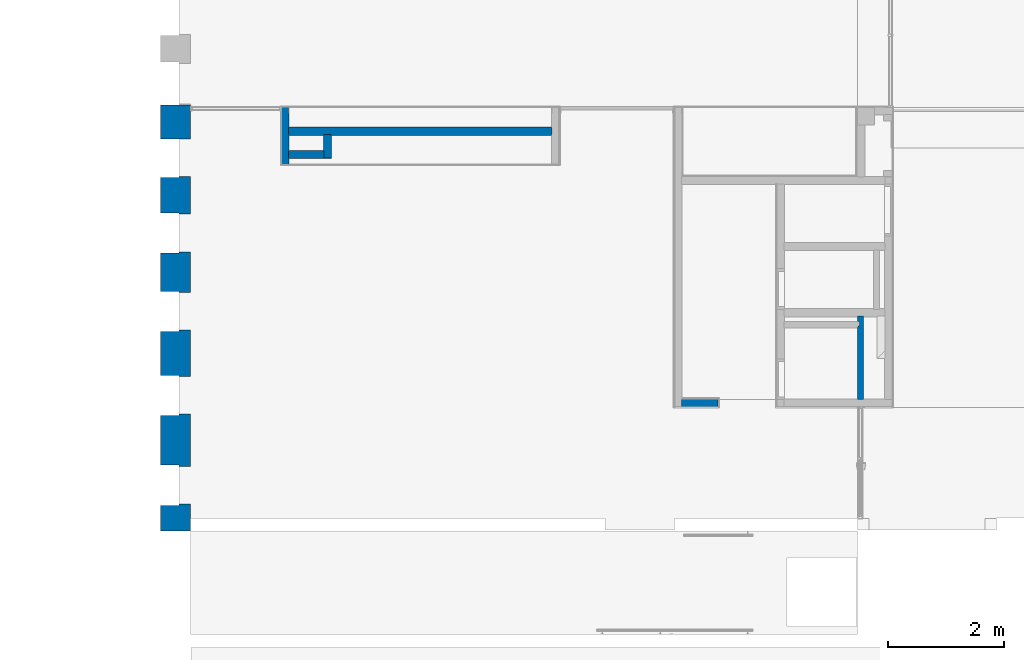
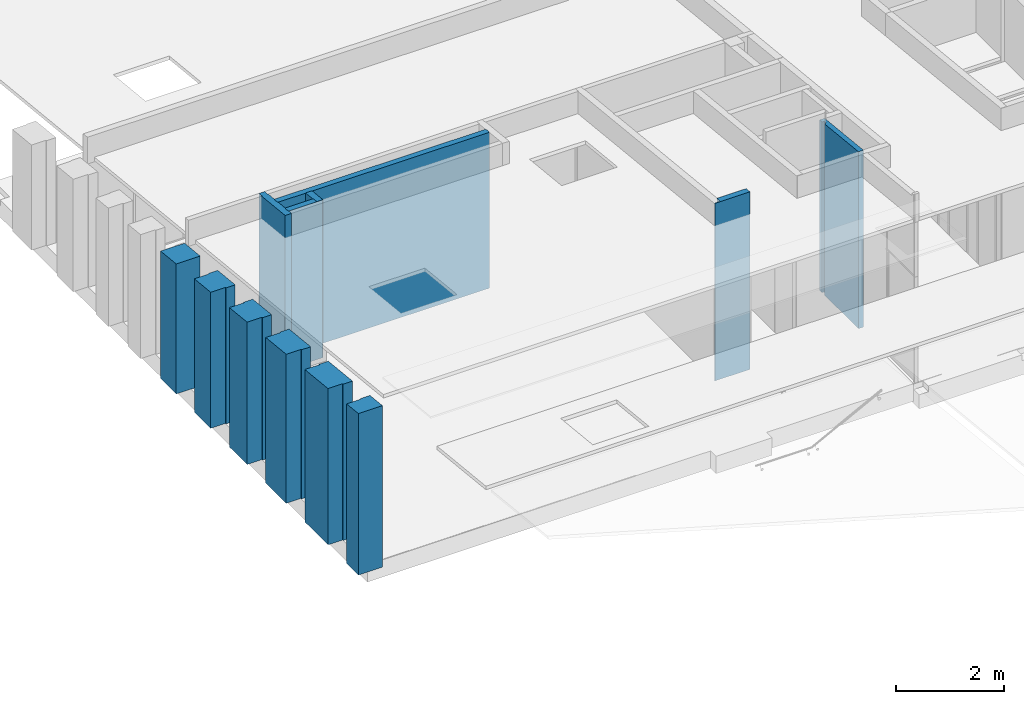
# One storey, part 25 of 43: 8 walls, 5 openings.
"""IFC2X3 building model written with IfcOpenShell, lengths in millimetres."""

import ifcopenshell
import ifcopenshell.guid

model = None  # the IFC model being written
_history = None  # IfcOwnerHistory: only IFC2X3 demands one
_inside = {}  # id of a spatial element -> (the spatial element, [elements in it])
_under = {}  # id of a project, library or spatial element -> (it, [spatial elements below it])
_declared = {}  # id of a project -> (the project, [libraries it declares])
_typed = {}  # id of a type object -> (the type object, [elements of that type])
_made_of = {}  # id of a material, layer set ... -> (it, [elements and type objects made of it])


def new_model(schema):
    """Start an empty IFC model of exactly this schema.

    Asked for "IFC4X3", IfcOpenShell would pick the latest addendum, in which some entities
    have other attributes; the version numbers below select the first issue.
    IFC2X3 requires an IfcOwnerHistory on every rooted entity: one is made here for all.
    """
    global model, _history
    if schema == "IFC4X3":
        model = ifcopenshell.file(schema_version=(4, 3, 0, 0))
    else:
        model = ifcopenshell.file(schema=schema)
    _inside.clear()
    _under.clear()
    _declared.clear()
    _typed.clear()
    _made_of.clear()
    _history = None
    if model.schema == "IFC2X3":
        org = make("IfcOrganization", Name="unknown")
        user = make(
            "IfcPersonAndOrganization",
            ThePerson=make("IfcPerson", FamilyName="unknown"),
            TheOrganization=org,
        )
        app = make(
            "IfcApplication",
            ApplicationDeveloper=org,
            Version="unknown",
            ApplicationFullName="unknown",
            ApplicationIdentifier="unknown",
        )
        _history = make(
            "IfcOwnerHistory",
            OwningUser=user,
            OwningApplication=app,
            ChangeAction="ADDED",
            CreationDate=0,
        )
    return model


def make(cls, **values):
    """One entity of the class cls with the attributes given. An attribute that is None is left unset."""
    return model.create_entity(
        cls, **{name: value for name, value in values.items() if value is not None}
    )


def entity(cls, *values):
    """Any entity or typed value of the class cls, its attributes in the order of the schema. None: left unset."""
    e = model.create_entity(cls)
    for i, value in enumerate(values):
        if value is not None:
            e[i] = value
    return e


def rooted(cls, **values):
    """An entity with a GlobalId (a new one), such as an element, a storey or a relation."""
    return make(cls, GlobalId=ifcopenshell.guid.new(), OwnerHistory=_history, **values)


def si_unit(unit_type, name, prefix=None):
    """IfcSIUnit, for example si_unit("LENGTHUNIT", "METRE", prefix="MILLI")."""
    return make("IfcSIUnit", UnitType=unit_type, Prefix=prefix, Name=name)


def converted_unit(unit_type, name, factor, base, dimensions=None, offset=None):
    """IfcConversionBasedUnit, such as the inch: factor (a typed value) times the base unit."""
    return make(
        "IfcConversionBasedUnit"
        if offset is None
        else "IfcConversionBasedUnitWithOffset",
        ConversionOffset=offset,
        Dimensions=None
        if dimensions is None
        else entity("IfcDimensionalExponents", *dimensions),
        UnitType=unit_type,
        Name=name,
        ConversionFactor=make(
            "IfcMeasureWithUnit", ValueComponent=factor, UnitComponent=base
        ),
    )


def derived_unit(unit_type, elements):
    """IfcDerivedUnit: a product of units, each with its exponent."""
    return make(
        "IfcDerivedUnit",
        Elements=[
            make("IfcDerivedUnitElement", Unit=unit, Exponent=power)
            for unit, power in elements
        ],
        UnitType=unit_type,
    )


def money_unit(currency):
    """IfcMonetaryUnit."""
    return make("IfcMonetaryUnit", Currency=currency)


def assignment(units):
    """IfcUnitAssignment: the units of a project."""
    return None if units is None else make("IfcUnitAssignment", Units=units)


def point(xyz):
    """IfcCartesianPoint."""
    return None if xyz is None else make("IfcCartesianPoint", Coordinates=xyz)


def direction(xyz):
    """IfcDirection."""
    return None if xyz is None else make("IfcDirection", DirectionRatios=xyz)


def frame(location, z_axis=None, x_axis=None):
    """IfcAxis2Placement3D, a coordinate frame: its origin and axes. An axis left out is left unset."""
    return make(
        "IfcAxis2Placement3D",
        Location=point(location),
        Axis=direction(z_axis),
        RefDirection=direction(x_axis),
    )


def origin_with_axes():
    """The frame at (0, 0, 0) with the z axis (0, 0, 1) and the x axis (1, 0, 0) written out."""
    return frame((0.0, 0.0, 0.0), z_axis=(0.0, 0.0, 1.0), x_axis=(1.0, 0.0, 0.0))


def place(relative_to, where):
    """IfcLocalPlacement: puts the frame where relative to a parent placement (None: the world)."""
    return make(
        "IfcLocalPlacement", PlacementRelTo=relative_to, RelativePlacement=where
    )


def context(
    kind, dimensions, precision=None, world=None, true_north=None, identifier=None
):
    """IfcGeometricRepresentationContext, for example the 3D "Model" context."""
    return make(
        "IfcGeometricRepresentationContext",
        ContextIdentifier=identifier,
        ContextType=kind,
        CoordinateSpaceDimension=dimensions,
        Precision=precision,
        WorldCoordinateSystem=world,
        TrueNorth=true_north,
    )


def subcontext(parent, identifier, kind, view, scale=None):
    """IfcGeometricRepresentationSubContext, for example "Body" below "Model"."""
    return make(
        "IfcGeometricRepresentationSubContext",
        ContextIdentifier=identifier,
        ContextType=kind,
        ParentContext=parent,
        TargetScale=scale,
        TargetView=view,
    )


def project(units=None, contexts=None):
    """IfcProject with its units and contexts."""
    return rooted(
        "IfcProject",
        Name="project",
        RepresentationContexts=contexts,
        UnitsInContext=assignment(units),
    )


def spatial(cls, under=None, at=None, **own):
    """A site, building, storey or space (cls), placed at a placement, below another one or the project."""
    s = rooted(cls, ObjectPlacement=at, **own)
    if under is not None:
        _under.setdefault(under.id(), (under, []))[1].append(s)
    return s


def faces_of(points, faces, orient=None, outer=None):
    """IfcFace entities. A face is a list of loops; a loop is a list of indices into points, from 0.

    orient and outer hold one flag for each loop. By default every Orientation is true, the
    first loop of a face is its IfcFaceOuterBound and the others are IfcFaceBound.
    """
    made = []
    for i, loops in enumerate(faces):
        bounds = []
        for j, loop in enumerate(loops):
            is_outer = j == 0 if outer is None else outer[i][j]
            bounds.append(
                make(
                    "IfcFaceOuterBound" if is_outer else "IfcFaceBound",
                    Bound=make("IfcPolyLoop", Polygon=[points[k] for k in loop]),
                    Orientation=True if orient is None else orient[i][j],
                )
            )
        made.append(make("IfcFace", Bounds=bounds))
    return made


def faceted_brep(points, faces, orient=None, outer=None, voids=None):
    """IfcFacetedBrep: a solid bounded by flat faces; with voids (closed shells), ...WithVoids."""
    shared = [point(p) for p in points]
    hull = make("IfcClosedShell", CfsFaces=faces_of(shared, faces, orient, outer))
    if voids is None:
        return make("IfcFacetedBrep", Outer=hull)
    return make(
        "IfcFacetedBrepWithVoids",
        Outer=hull,
        Voids=[
            make(cls, CfsFaces=faces_of(shared, fs, o, b)) for cls, fs, o, b in voids
        ],
    )


def shape(context_of_items, identifier, shape_type, items):
    """IfcShapeRepresentation: the items that make up one representation, for example the "Body"."""
    return make(
        "IfcShapeRepresentation",
        ContextOfItems=context_of_items,
        RepresentationIdentifier=identifier,
        RepresentationType=shape_type,
        Items=items,
    )


def material(Name=None, Category=None):
    """IfcMaterial."""
    return make("IfcMaterial", Name=Name, Category=Category)


def material_list(materials):
    """IfcMaterialList."""
    return make("IfcMaterialList", Materials=materials)


def made_of(thing, what):
    """Note that an element or type object is made of a material, layer set ...; save() writes the relation."""
    if what is not None:
        _made_of.setdefault(what.id(), (what, []))[1].append(thing)
    return thing


def type_object(cls, material=None, **own):
    """A type object (cls), such as IfcWallType, which elements share."""
    return made_of(rooted(cls, **own), material)


def element(
    cls,
    number,
    at=None,
    inside=None,
    cuts=None,
    type_object=None,
    material=None,
    context=None,
    identifier="Body",
    shape_type=None,
    held_by="IfcProductDefinitionShape",
    body=None,
    shapes=None,
    **own,
):
    """One element of the class cls, such as IfcWall. Its Tag is "e" and its number.

    at: its placement. inside: the storey or other place that contains it. cuts: it is an
    opening in that element (IfcRelVoidsElement). A single representation is given by context,
    identifier, shape_type and body (its items); several are given by shapes. held_by: the class
    of the entity that holds the representations. save() writes the other relations.
    """
    e = rooted(cls, Tag="e%d" % number, ObjectPlacement=at, **own)
    if body is not None:
        shapes = [shape(context, identifier, shape_type, body)]
    if shapes is not None:
        e.Representation = make(held_by, Representations=shapes)
    if inside is not None:
        _inside.setdefault(inside.id(), (inside, []))[1].append(e)
    if cuts is not None:
        rooted(
            "IfcRelVoidsElement", RelatingBuildingElement=cuts, RelatedOpeningElement=e
        )
    if type_object is not None:
        _typed.setdefault(type_object.id(), (type_object, []))[1].append(e)
    return made_of(e, material)


def aggregate(whole, parts):
    """IfcRelAggregates: a whole, such as a stair, and the parts it consists of."""
    return rooted("IfcRelAggregates", RelatingObject=whole, RelatedObjects=parts)


def save(model, path):
    """Write the relations noted so far, then the file.

    IfcRelAggregates (storeys below a building ...), IfcRelContainedInSpatialStructure (elements
    in a storey), IfcRelDefinesByType, IfcRelAssociatesMaterial and IfcRelDeclares: one each for
    every whole, place, type object, material and project.
    """
    for whole, parts in _under.values():
        aggregate(whole, parts)
    for where, things in _inside.values():
        rooted(
            "IfcRelContainedInSpatialStructure",
            RelatedElements=things,
            RelatingStructure=where,
        )
    for kind, things in _typed.values():
        rooted("IfcRelDefinesByType", RelatedObjects=things, RelatingType=kind)
    for what, things in _made_of.values():
        rooted("IfcRelAssociatesMaterial", RelatedObjects=things, RelatingMaterial=what)
    for by, libraries in _declared.values():
        rooted("IfcRelDeclares", RelatingContext=by, RelatedDefinitions=libraries)
    model.write(path)


model = new_model("IFC2X3")

# Units and contexts
model_context = context("Model", 3, precision=0.01, world=origin_with_axes(), true_north=direction((0.0, 1.0)))
body_context = subcontext(model_context, "Body", "Model", "MODEL_VIEW")
ifc_project = project(units=[si_unit("LENGTHUNIT", "METRE", prefix="MILLI"), si_unit("AREAUNIT", "SQUARE_METRE"), si_unit("VOLUMEUNIT", "CUBIC_METRE"), converted_unit("PLANEANGLEUNIT", "DEGREE", entity("IfcPlaneAngleMeasure", 0.0174532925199), si_unit("PLANEANGLEUNIT", "RADIAN"), dimensions=[0, 0, 0, 0, 0, 0, 0]), si_unit("SOLIDANGLEUNIT", "STERADIAN"), money_unit("EUR"), converted_unit("TIMEUNIT", "Year", entity("IfcTimeMeasure", 31556926.0), si_unit("TIMEUNIT", "SECOND"), dimensions=[0, 0, 1, 0, 0, 0, 0]), si_unit("MASSUNIT", "GRAM", prefix="KILO"), si_unit("THERMODYNAMICTEMPERATUREUNIT", "DEGREE_CELSIUS"), si_unit("LUMINOUSINTENSITYUNIT", "LUMEN"), si_unit("ENERGYUNIT", "JOULE", prefix="MEGA"), derived_unit("THERMALCONDUCTANCEUNIT", [(si_unit("POWERUNIT", "WATT"), 1), (si_unit("LENGTHUNIT", "METRE"), -1), (si_unit("THERMODYNAMICTEMPERATUREUNIT", "KELVIN"), -1)]), derived_unit("SPECIFICHEATCAPACITYUNIT", [(si_unit("ENERGYUNIT", "JOULE"), 1), (si_unit("MASSUNIT", "GRAM", prefix="KILO"), -1), (si_unit("THERMODYNAMICTEMPERATUREUNIT", "KELVIN"), -1)]), derived_unit("MASSDENSITYUNIT", [(si_unit("MASSUNIT", "GRAM", prefix="KILO"), 1), (si_unit("VOLUMEUNIT", "CUBIC_METRE"), -1)])], contexts=[model_context])

# Site, building, storey
site_placement = place(None, origin_with_axes())
site = spatial("IfcSite", under=ifc_project, at=site_placement, Name="L.Koidula tn 11b", CompositionType="ELEMENT")
building_placement = place(site_placement, origin_with_axes())
building = spatial("IfcBuilding", under=site, at=building_placement, Name="Rakvere Riigigümnaasium", CompositionType="ELEMENT")
storey_placement = place(building_placement, frame((0.0, 0.0, 6665.0), z_axis=(0.0, 0.0, 1.0), x_axis=(1.0, 0.0, 0.0)))
storey = spatial("IfcBuildingStorey", under=building, at=storey_placement, Name="3.korrus +6,66", CompositionType="ELEMENT", Elevation=6665.0)

# Walls
ifc_material_1 = material(Name="Krohv")
ifc_material_2 = material(Name="Silikaat plokk")
ifc_material_list_1 = material_list([ifc_material_1, ifc_material_2, ifc_material_1])
wall_type_1 = type_object("IfcWallType", Name="SS-05 140", PredefinedType="NOTDEFINED")
wall_1_placement = place(storey_placement, frame((37074.9860125, 24410.4555472, 0.0), z_axis=(0.0, 0.0, 1.0), x_axis=(0.0, -1.0, 0.0)))
element("IfcWall", 1, at=wall_1_placement, inside=storey, type_object=wall_type_1, material=ifc_material_list_1, Name="Sisesein", context=body_context, shape_type="Brep", body=[
    faceted_brep([(117.5, 120.0, 0.0), (117.5, 120.000003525, 3491.19939905), (117.5, 130.0000141, 3491.19924725), (117.5, 130.0, 0.0), (360.000000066, 120.0, 0.0), (360.000000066, 120.000001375, 3516.68717584), (360.000000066, 130.000005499, 3516.68702404), (360.000000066, 130.0, 0.0)], [[[0, 1, 2, 3]], [[4, 5, 1, 0]], [[5, 6, 2, 1]], [[3, 2, 6, 7]], [[3, 7, 4, 0]], [[7, 6, 5, 4]]]),
    faceted_brep([(880.000000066, 120.0, 0.0), (880.000000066, 120.000000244, 3571.34137761), (880.000000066, 130.000000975, 3571.34122581), (880.000000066, 130.0, 0.0), (990.000000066, 120.0, 0.0), (990.000000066, 120.0, 3582.90284337), (990.000000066, 130.0, 3582.90269157), (990.000000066, 130.0, 0.0)], [[[0, 1, 2, 3]], [[4, 5, 1, 0]], [[5, 6, 2, 1]], [[3, 2, 6, 7]], [[4, 0, 3, 7]], [[7, 6, 5, 4]]]),
    faceted_brep([(480.000000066, 120.0, 0.0), (480.000000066, 120.000001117, 3529.29968394), (480.000000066, 130.000004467, 3529.29953214), (480.000000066, 130.0, 0.0), (760.000000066, 120.0, 0.0), (760.000000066, 120.000000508, 3558.72886951), (760.000000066, 130.000002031, 3558.72871771), (760.000000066, 130.0, 0.0)], [[[0, 1, 2, 3]], [[4, 5, 1, 0]], [[5, 6, 2, 1]], [[3, 2, 6, 7]], [[4, 0, 3, 7]], [[7, 6, 5, 4]]]),
    faceted_brep([(0.0, 0.0, 0.0), (0.0, 6.41093578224e-06, 3478.85147308), (0.0, 120.000002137, 3478.84965153), (0.0, 120.0, 0.0), (990.000000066, 0.0, 0.0), (990.000000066, 0.0, 3582.90466491), (990.000000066, 120.0, 3582.90284337), (990.000000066, 120.0, 0.0)], [[[0, 1, 2, 3]], [[4, 5, 1, 0]], [[5, 6, 2, 1]], [[3, 2, 6, 7]], [[3, 7, 4, 0]], [[7, 6, 5, 4]]]),
    faceted_brep([(117.5, -9.99999999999, 0.0), (117.5, -10.0, 3491.20137239), (117.5, 1.05751638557e-05, 3491.20122059), (117.5, 0.0, 0.0), (990.000000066, -10.0, 0.0), (990.000000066, -10.0, 3582.90481671), (990.000000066, 0.0, 3582.90466491), (990.000000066, 0.0, 0.0)], [[[0, 1, 2, 3]], [[4, 5, 1, 0]], [[5, 6, 2, 1]], [[3, 2, 6, 7]], [[3, 7, 4, 0]], [[7, 6, 5, 4]]]),
])
wall_2_placement = place(storey_placement, frame((41855.0034893, 23930.4555472, 0.0), z_axis=(0.0, 0.0, 1.0), x_axis=(-1.0, 0.0, 0.0)))
element("IfcWall", 2, at=wall_2_placement, inside=storey, type_object=wall_type_1, material=ifc_material_list_1, Name="Sisesein", context=body_context, shape_type="Brep", body=[
    faceted_brep([(3930.01747682, 0.0, 0.0), (3930.01747682, 0.0, 3529.28860286), (130.0, 0.0, 3529.23092029), (130.0, 0.0, 0.0), (3930.01747682, 10.0, 0.0), (3930.01747682, 10.0, 3530.33964521), (130.0, 10.0, 3530.28196263), (130.0, 10.0, 0.0)], [[[0, 1, 2, 3]], [[4, 5, 1, 0]], [[5, 6, 2, 1]], [[3, 2, 6, 7]], [[7, 4, 0, 3]], [[7, 6, 5, 4]]]),
    faceted_brep([(4650.01747682, 0.0, 0.0), (4650.01747682, 0.0, 3529.29953214), (4050.01747682, 0.0, 3529.29042441), (4050.01747682, 0.0, 0.0), (4650.01747682, 10.0, 0.0), (4650.01747682, 10.0, 3530.35057449), (4050.01747682, 10.0, 3530.34146675), (4050.01747682, 10.0, 0.0)], [[[0, 1, 2, 3]], [[4, 5, 1, 0]], [[5, 6, 2, 1]], [[3, 2, 6, 7]], [[7, 4, 0, 3]], [[7, 6, 5, 4]]]),
    faceted_brep([(4660.01747682, -120.0, 0.0), (4660.01747682, -120.0, 3516.68717584), (120.0, -120.0, 3516.61826039), (120.0, -120.0, 0.0), (4660.01747682, 0.0, 0.0), (4660.01747682, 0.0, 3529.29968394), (120.0, 0.0, 3529.23076849), (120.0, 0.0, 0.0)], [[[0, 1, 2, 3]], [[4, 5, 1, 0]], [[5, 6, 2, 1]], [[3, 2, 6, 7]], [[7, 4, 0, 3]], [[7, 6, 5, 4]]]),
    faceted_brep([(4650.01747682, -130.0, 0.0), (4650.01747682, -130.0, 3515.6359817), (130.0, -130.0, 3515.56736984), (130.0, -130.0, 0.0), (4650.01747682, -120.0, 0.0), (4650.01747682, -120.0, 3516.68702404), (130.0, -120.0, 3516.61841218), (130.0, -120.0, 0.0)], [[[0, 1, 2, 3]], [[4, 5, 1, 0]], [[5, 6, 2, 1]], [[3, 2, 6, 7]], [[7, 4, 0, 3]], [[7, 6, 5, 4]]]),
])
wall_3_placement = place(storey_placement, frame((37804.9860125, 23930.4555472, 0.0), z_axis=(0.0, 0.0, 1.0), x_axis=(0.0, -1.0, 0.0)))
element("IfcWall", 3, at=wall_3_placement, inside=storey, type_object=wall_type_1, material=ifc_material_list_1, Name="Sisesein", context=body_context, shape_type="Brep", body=[
    faceted_brep([(10.0, 120.0, 3530.33964521), (10.0, 130.0, 3530.33949341), (10.0, 130.0, 0.0), (10.0, 120.0, 0.0), (410.0, 130.0, 3572.38118708), (410.0, 120.0, 3572.38133887), (410.0, 130.0, 0.0), (410.0, 120.0, 0.0)], [[[0, 1, 2, 3]], [[4, 1, 0, 5]], [[1, 4, 6, 2]], [[6, 7, 3, 2]], [[5, 0, 3, 7]], [[4, 5, 7, 6]]]),
    faceted_brep([(0.0, 0.0, 3529.29042441), (0.0, 120.0, 3529.28860286), (0.0, 120.0, 0.0), (0.0, 0.0, 0.0), (400.0, 120.0, 3571.33029653), (400.0, 0.0, 3571.33211808), (400.0, 120.0, 0.0), (400.0, 0.0, 0.0)], [[[0, 1, 2, 3]], [[4, 1, 0, 5]], [[1, 4, 6, 2]], [[6, 7, 3, 2]], [[5, 0, 3, 7]], [[4, 5, 7, 6]]]),
    faceted_brep([(10.0, -10.0, 3530.34161855), (10.0, 0.0, 3530.34146675), (10.0, 0.0, 0.0), (10.0, -10.0, 0.0), (280.0, 0.0, 3558.71960998), (280.0, -10.0, 3558.71976177), (280.0, 0.0, 0.0), (280.0, -10.0, 0.0)], [[[0, 1, 2, 3]], [[4, 1, 0, 5]], [[1, 4, 6, 2]], [[6, 7, 3, 2]], [[5, 0, 3, 7]], [[4, 5, 7, 6]]]),
])
wall_4_placement = place(storey_placement, frame((37804.9860125, 23530.4555472, 0.0), z_axis=(0.0, 0.0, 1.0), x_axis=(-1.0, 0.0, 0.0)))
element("IfcWall", 4, at=wall_4_placement, inside=storey, type_object=wall_type_1, material=ifc_material_list_1, Name="Sisesein", context=body_context, shape_type="Brep", body=[
    faceted_brep([(600.0, 0.0, 3571.34122581), (-120.0, 0.0, 3571.33029653), (-120.0, 0.0, 0.0), (600.0, 0.0, 0.0), (-120.0, 10.0, 3572.38133887), (600.0, 10.0, 3572.39226815), (-120.0, 10.0, 0.0), (600.0, 10.0, 0.0)], [[[0, 1, 2, 3]], [[4, 1, 0, 5]], [[1, 4, 6, 2]], [[7, 3, 2, 6]], [[5, 0, 3, 7]], [[4, 5, 7, 6]]]),
    faceted_brep([(610.0, -120.0, 3558.72886951), (0.0, -120.0, 3558.71960998), (0.0, -120.0, 0.0), (610.0, -120.0, 0.0), (0.0, 0.0, 3571.33211808), (610.0, 0.0, 3571.34137761), (0.0, 0.0, 0.0), (610.0, 0.0, 0.0)], [[[0, 1, 2, 3]], [[4, 1, 0, 5]], [[1, 4, 6, 2]], [[7, 3, 2, 6]], [[5, 0, 3, 7]], [[4, 5, 7, 6]]]),
    faceted_brep([(600.0, -130.0, 3557.67767537), (10.0, -130.0, 3557.66871943), (10.0, -130.0, 0.0), (600.0, -130.0, 0.0), (10.0, -120.0, 3558.71976177), (600.0, -120.0, 3558.72871771), (10.0, -120.0, 0.0), (600.0, -120.0, 0.0)], [[[0, 1, 2, 3]], [[4, 1, 0, 5]], [[1, 4, 6, 2]], [[7, 3, 2, 6]], [[5, 0, 3, 7]], [[4, 5, 7, 6]]]),
])
wall_5_placement = place(storey_placement, frame((44599.9999911, 19240.4397072, 0.0), z_axis=(0.0, 0.0, 1.0), x_axis=(-1.0, 0.0, 0.0)))
element("IfcWall", 5, at=wall_5_placement, inside=storey, type_object=wall_type_1, material=ifc_material_list_1, Name="Sisesein", context=body_context, shape_type="Brep", body=[
    faceted_brep([(749.999994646, 10.0, 0.0), (749.999994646, 0.0, 0.0), (0.0, 0.0, 0.0), (0.0, 10.0, 0.0), (749.999994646, 10.0, 4022.12780187), (749.999994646, 0.0, 4022.12780187), (0.0, 0.0, 4022.12780187), (0.0, 10.0, 4022.12780187)], [[[0, 1, 2, 3]], [[1, 0, 4, 5]], [[1, 5, 6, 2]], [[7, 3, 2, 6]], [[4, 0, 3, 7]], [[5, 4, 7, 6]]]),
    faceted_brep([(629.999994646, -120.0, 4009.52485723), (0.0, -120.0, 4009.51529411), (0.0, -120.0, 0.0), (629.999994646, -120.0, 0.0), (0.0, -3.50439677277e-08, 4022.12780221), (629.999994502, -0.00099417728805, 4022.13726084), (0.0, 0.0, 0.0), (629.999994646, 0.0, 0.0)], [[[0, 1, 2, 3]], [[4, 1, 0, 5]], [[1, 4, 6, 2]], [[2, 6, 7, 3]], [[5, 0, 3, 7]], [[4, 5, 7, 6]]]),
    faceted_brep([(619.999994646, -130.0, 4008.47366309), (0.0, -130.0, 4008.46425177), (0.0, -130.0, 0.0), (619.999994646, -130.0, 0.0), (0.0, -120.0, 4009.51529411), (619.999994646, -120.0, 4009.52470544), (0.0, -120.0, 0.0), (619.999994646, -120.0, 0.0)], [[[0, 1, 2, 3]], [[4, 1, 0, 5]], [[1, 4, 6, 2]], [[7, 3, 2, 6]], [[5, 0, 3, 7]], [[4, 5, 7, 6]]]),
])

# Wall, openings
ifc_material_3 = material(Name="Betoon-element")
ifc_material_4 = material(Name="FF-PIR soojustus")
ifc_material_5 = material(Name="Tuuletõke (RKL Facade)")
ifc_material_6 = material(Name="Salto-roovitus")
ifc_material_7 = material(Name="Puit-fassaad")
ifc_material_list_2 = material_list([ifc_material_3, ifc_material_4, ifc_material_5, ifc_material_6, ifc_material_6, ifc_material_7])
wall_type_2 = type_object("IfcWallType", Name="VS-01 514", PredefinedType="NOTDEFINED")
wall_6_placement = place(storey_placement, frame((35500.0000521, 23860.4555253, 0.0), z_axis=(0.0, 0.0, 1.0), x_axis=(0.0, -1.0, 0.0)))
wall_6 = element("IfcWall", 6, at=wall_6_placement, inside=storey, type_object=wall_type_2, material=ifc_material_list_2, Name="Välissein", context=body_context, shape_type="Brep", body=[
    faceted_brep([(6300.00016777, -200.0, 3608.39182343), (6300.00016777, 0.0, 3608.39182343), (6300.00016777, 0.0, 0.0), (6300.00016777, -200.0, 0.0), (6760.00000367, 0.0, 3656.73975441), (6760.00000367, -200.0, 3656.73975441), (6760.00000367, 0.0, 0.0), (6760.00000367, -200.0, 0.0)], [[[0, 1, 2, 3]], [[4, 1, 0, 5]], [[1, 4, 6, 2]], [[2, 6, 7, 3]], [[5, 0, 3, 7]], [[4, 5, 7, 6]]]),
    faceted_brep([(4750.00000306, -200.0, 3445.48024146), (4750.00000306, 0.0, 3445.48024146), (4750.0, 0.0, 0.0), (4750.0, -200.0, 0.0), (5650.00016777, 0.0, 3540.07407051), (5650.00016777, -200.0, 3540.07407051), (5650.00016777, 0.0, 0.0), (5650.00016777, -200.0, 0.0)], [[[0, 1, 2, 3]], [[4, 1, 0, 5]], [[1, 4, 6, 2]], [[7, 3, 2, 6]], [[5, 0, 3, 7]], [[4, 5, 7, 6]]]),
    faceted_brep([(3300.0, -200.0, 3293.0791), (3300.0, 0.0, 3293.0791), (3300.0, 0.0, 0.0), (3300.0, -200.0, 0.0), (4100.0, 0.0, 3377.16248822), (4100.0, -200.0, 3377.16248822), (4100.0, 0.0, 0.0), (4100.0, -200.0, 0.0)], [[[0, 1, 2, 3]], [[4, 1, 0, 5]], [[1, 4, 6, 2]], [[3, 2, 6, 7]], [[5, 0, 3, 7]], [[4, 5, 7, 6]]]),
    faceted_brep([(1950.0, -200.0, 3151.18838239), (1950.0, 0.0, 3151.18838239), (1950.0, 0.0, 0.0), (1950.0, -200.0, 0.0), (2650.0, 0.0, 3224.76134708), (2650.0, -200.0, 3224.76134708), (2650.0, 0.0, 0.0), (2650.0, -200.0, 0.0)], [[[0, 1, 2, 3]], [[4, 1, 0, 5]], [[1, 4, 6, 2]], [[2, 6, 7, 3]], [[5, 0, 3, 7]], [[4, 5, 7, 6]]]),
    faceted_brep([(650.0, -200.0, 3014.55287655), (650.0, 0.0, 3014.55287655), (650.0, 0.0, 0.0), (650.0, -200.0, 0.0), (1300.0, 0.0, 3082.87062947), (1300.0, -200.0, 3082.87062947), (1300.0, 0.0, 0.0), (1300.0, -200.0, 0.0)], [[[0, 1, 2, 3]], [[4, 1, 0, 5]], [[1, 4, 6, 2]], [[6, 7, 3, 2]], [[5, 0, 3, 7]], [[4, 5, 7, 6]]]),
    faceted_brep([(6320.00016777, -380.0, 3610.49390814), (6320.00016777, -200.0, 3610.49390814), (6320.00016777, -200.0, 0.0), (6320.00016777, -380.0, 0.0), (6760.00000367, -200.0, 3656.73975441), (6518.31248762, -380.0, 3631.33737286), (6760.00000366, -380.009756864, 3656.73975441), (6760.00000367, -200.0, 0.0), (6760.00000367, -380.0, 0.0)], [[[0, 1, 2, 3]], [[4, 1, 0, 5, 6]], [[1, 4, 7, 2]], [[7, 8, 3, 2]], [[5, 0, 3, 8]], [[6, 5, 8]], [[4, 6, 8, 7]]]),
    faceted_brep([(4770.0, -380.0, 3447.58232584), (4770.0, -200.0, 3447.58232584), (4770.0, -200.0, 0.0), (4770.0, -380.0, 0.0), (5630.00016777, -200.0, 3537.97198581), (5630.00016777, -380.0, 3537.97198581), (5630.00016777, -200.0, 0.0), (5630.00016777, -380.0, 0.0)], [[[0, 1, 2, 3]], [[4, 1, 0, 5]], [[1, 4, 6, 2]], [[3, 2, 6, 7]], [[5, 0, 3, 7]], [[4, 5, 7, 6]]]),
    faceted_brep([(3320.0, -380.0, 3295.18118471), (3320.0, -200.0, 3295.18118471), (3320.0, -200.0, 0.0), (3320.0, -380.0, 0.0), (4080.0, -200.0, 3375.06040351), (4080.0, -380.0, 3375.06040351), (4080.0, -200.0, 0.0), (4080.0, -380.0, 0.0)], [[[0, 1, 2, 3]], [[4, 1, 0, 5]], [[1, 4, 6, 2]], [[2, 6, 7, 3]], [[5, 0, 3, 7]], [[4, 5, 7, 6]]]),
    faceted_brep([(1970.0, -380.0, 3153.2904671), (1970.0, -200.0, 3153.2904671), (1970.0, -200.0, 0.0), (1970.0, -380.0, 0.0), (2630.0, -200.0, 3222.65926238), (2630.0, -380.0, 3222.65926238), (2630.0, -200.0, 0.0), (2630.0, -380.0, 0.0)], [[[0, 1, 2, 3]], [[4, 1, 0, 5]], [[1, 4, 6, 2]], [[6, 7, 3, 2]], [[5, 0, 3, 7]], [[4, 5, 7, 6]]]),
    faceted_brep([(670.0, -380.0, 3016.65496125), (670.0, -200.0, 3016.65496125), (670.0, -200.0, 0.0), (670.0, -380.0, 0.0), (1280.0, -200.0, 3080.76854477), (1280.0, -380.0, 3080.76854477), (1280.0, -200.0, 0.0), (1280.0, -380.0, 0.0)], [[[0, 1, 2, 3]], [[4, 1, 0, 5]], [[1, 4, 6, 2]], [[7, 3, 2, 6]], [[5, 0, 3, 7]], [[4, 5, 7, 6]]]),
    faceted_brep([(6320.00016777, -430.0, 3610.49390814), (6320.00016777, -380.0, 3610.49390814), (6320.00016777, -380.0, 0.0), (6320.00016777, -430.0, 0.0), (6760.00000367, -380.0, 3656.73975441), (6760.00000367, -430.0, 3656.73975441), (6760.00000367, -380.0, 0.0), (6760.00000367, -430.0, 0.0)], [[[0, 1, 2, 3]], [[4, 1, 0, 5]], [[1, 4, 6, 2]], [[6, 7, 3, 2]], [[5, 0, 3, 7]], [[4, 5, 7, 6]]]),
    faceted_brep([(4770.0, -430.0, 3447.58232584), (4770.0, -380.0, 3447.58232584), (4770.0, -380.0, 0.0), (4770.0, -430.0, 0.0), (5630.00016777, -380.0, 3537.97198581), (5630.00016777, -430.0, 3537.97198581), (5630.00016777, -380.0, 0.0), (5630.00016777, -430.0, 0.0)], [[[0, 1, 2, 3]], [[4, 1, 0, 5]], [[1, 4, 6, 2]], [[3, 2, 6, 7]], [[5, 0, 3, 7]], [[4, 5, 7, 6]]]),
    faceted_brep([(3320.0, -430.0, 3295.18118471), (3320.0, -380.0, 3295.18118471), (3320.0, -380.0, 0.0), (3320.0, -430.0, 0.0), (4080.0, -380.0, 3375.06040351), (4080.0, -430.0, 3375.06040351), (4080.0, -380.0, 0.0), (4080.0, -430.0, 0.0)], [[[0, 1, 2, 3]], [[4, 1, 0, 5]], [[1, 4, 6, 2]], [[2, 6, 7, 3]], [[5, 0, 3, 7]], [[4, 5, 7, 6]]]),
    faceted_brep([(1970.0, -430.0, 3153.2904671), (1970.0, -380.0, 3153.2904671), (1970.0, -380.0, 0.0), (1970.0, -430.0, 0.0), (2630.0, -380.0, 3222.65926238), (2630.0, -430.0, 3222.65926238), (2630.0, -380.0, 0.0), (2630.0, -430.0, 0.0)], [[[0, 1, 2, 3]], [[4, 1, 0, 5]], [[1, 4, 6, 2]], [[6, 7, 3, 2]], [[5, 0, 3, 7]], [[4, 5, 7, 6]]]),
    faceted_brep([(670.0, -430.0, 3016.65496125), (670.0, -380.0, 3016.65496125), (670.0, -380.0, 0.0), (670.0, -430.0, 0.0), (1280.0, -380.0, 3080.76854477), (1280.0, -430.0, 3080.76854477), (1280.0, -380.0, 0.0), (1280.0, -430.0, 0.0)], [[[0, 1, 2, 3]], [[4, 1, 0, 5]], [[1, 4, 6, 2]], [[7, 3, 2, 6]], [[5, 0, 3, 7]], [[4, 5, 7, 6]]]),
    faceted_brep([(6320.00016777, -462.0, 3610.49390814), (6320.00016777, -430.0, 3610.49390814), (6320.00016777, -430.0, 0.0), (6320.00016777, -462.0, 0.0), (6760.00000367, -430.0, 3656.73975441), (6760.00000367, -462.0, 3656.73975441), (6760.00000367, -430.0, 0.0), (6760.00000367, -462.0, 0.0)], [[[0, 1, 2, 3]], [[4, 1, 0, 5]], [[1, 4, 6, 2]], [[7, 3, 2, 6]], [[5, 0, 3, 7]], [[4, 5, 7, 6]]]),
    faceted_brep([(4770.0, -462.0, 3447.58232584), (4770.0, -430.0, 3447.58232584), (4770.0, -430.0, 0.0), (4770.0, -462.0, 0.0), (5630.00016777, -430.0, 3537.97198581), (5630.00016777, -462.0, 3537.97198581), (5630.00016777, -430.0, 0.0), (5630.00016777, -462.0, 0.0)], [[[0, 1, 2, 3]], [[4, 1, 0, 5]], [[1, 4, 6, 2]], [[2, 6, 7, 3]], [[5, 0, 3, 7]], [[4, 5, 7, 6]]]),
    faceted_brep([(3320.0, -462.0, 3295.18118471), (3320.0, -430.0, 3295.18118471), (3320.0, -430.0, 0.0), (3320.0, -462.0, 0.0), (4080.0, -430.0, 3375.06040351), (4080.0, -462.0, 3375.06040351), (4080.0, -430.0, 0.0), (4080.0, -462.0, 0.0)], [[[0, 1, 2, 3]], [[4, 1, 0, 5]], [[1, 4, 6, 2]], [[6, 7, 3, 2]], [[5, 0, 3, 7]], [[4, 5, 7, 6]]]),
    faceted_brep([(1970.0, -462.0, 3153.2904671), (1970.0, -430.0, 3153.2904671), (1970.0, -430.0, 0.0), (1970.0, -462.0, 0.0), (2630.0, -430.0, 3222.65926238), (2630.0, -462.0, 3222.65926238), (2630.0, -430.0, 0.0), (2630.0, -462.0, 0.0)], [[[0, 1, 2, 3]], [[4, 1, 0, 5]], [[1, 4, 6, 2]], [[7, 3, 2, 6]], [[5, 0, 3, 7]], [[4, 5, 7, 6]]]),
    faceted_brep([(670.0, -462.0, 3016.65496125), (670.0, -430.0, 3016.65496125), (670.0, -430.0, 0.0), (670.0, -462.0, 0.0), (1280.0, -430.0, 3080.76854477), (1280.0, -462.0, 3080.76854477), (1280.0, -430.0, 0.0), (1280.0, -462.0, 0.0)], [[[0, 1, 2, 3]], [[4, 1, 0, 5]], [[1, 4, 6, 2]], [[3, 2, 6, 7]], [[5, 0, 3, 7]], [[4, 5, 7, 6]]]),
    faceted_brep([(6320.00016777, -494.0, 3610.49390814), (6320.00016777, -462.0, 3610.49390814), (6320.00016777, -462.0, 0.0), (6320.00016777, -494.0, 0.0), (6760.00000367, -462.0, 3656.73975441), (6760.00000367, -494.0, 3656.73975441), (6760.00000367, -462.0, 0.0), (6760.00000367, -494.0, 0.0)], [[[0, 1, 2, 3]], [[4, 1, 0, 5]], [[1, 4, 6, 2]], [[7, 3, 2, 6]], [[5, 0, 3, 7]], [[4, 5, 7, 6]]]),
    faceted_brep([(4770.0, -494.0, 3447.58232584), (4770.0, -462.0, 3447.58232584), (4770.0, -462.0, 0.0), (4770.0, -494.0, 0.0), (5630.00016777, -462.0, 3537.97198581), (5630.00016777, -494.0, 3537.97198581), (5630.00016777, -462.0, 0.0), (5630.00016777, -494.0, 0.0)], [[[0, 1, 2, 3]], [[4, 1, 0, 5]], [[1, 4, 6, 2]], [[2, 6, 7, 3]], [[5, 0, 3, 7]], [[4, 5, 7, 6]]]),
    faceted_brep([(3320.0, -494.0, 3295.18118471), (3320.0, -462.0, 3295.18118471), (3320.0, -462.0, 0.0), (3320.0, -494.0, 0.0), (4080.0, -462.0, 3375.06040351), (4080.0, -494.0, 3375.06040351), (4080.0, -462.0, 0.0), (4080.0, -494.0, 0.0)], [[[0, 1, 2, 3]], [[4, 1, 0, 5]], [[1, 4, 6, 2]], [[6, 7, 3, 2]], [[5, 0, 3, 7]], [[4, 5, 7, 6]]]),
    faceted_brep([(1970.0, -494.0, 3153.2904671), (1970.0, -462.0, 3153.2904671), (1970.0, -462.0, 0.0), (1970.0, -494.0, 0.0), (2630.0, -462.0, 3222.65926238), (2630.0, -494.0, 3222.65926238), (2630.0, -462.0, 0.0), (2630.0, -494.0, 0.0)], [[[0, 1, 2, 3]], [[4, 1, 0, 5]], [[1, 4, 6, 2]], [[7, 3, 2, 6]], [[5, 0, 3, 7]], [[4, 5, 7, 6]]]),
    faceted_brep([(670.0, -494.0, 3016.65496125), (670.0, -462.0, 3016.65496125), (670.0, -462.0, 0.0), (670.0, -494.0, 0.0), (1280.0, -462.0, 3080.76854477), (1280.0, -494.0, 3080.76854477), (1280.0, -462.0, 0.0), (1280.0, -494.0, 0.0)], [[[0, 1, 2, 3]], [[4, 1, 0, 5]], [[1, 4, 6, 2]], [[3, 2, 6, 7]], [[5, 0, 3, 7]], [[4, 5, 7, 6]]]),
    faceted_brep([(6320.00016777, -514.0, 3610.49390814), (6320.00016777, -494.0, 3610.49390814), (6320.00016777, -494.0, 0.0), (6320.00016777, -514.0, 0.0), (6760.00000367, -494.0, 3656.73975441), (6760.00000367, -514.0, 3656.73975441), (6760.00000367, -494.0, 0.0), (6760.00000367, -514.0, 0.0)], [[[0, 1, 2, 3]], [[4, 1, 0, 5]], [[1, 4, 6, 2]], [[7, 3, 2, 6]], [[5, 0, 3, 7]], [[4, 5, 7, 6]]]),
    faceted_brep([(4770.0, -514.0, 3447.58232584), (4770.0, -494.0, 3447.58232584), (4770.0, -494.0, 0.0), (4770.0, -514.0, 0.0), (5630.00016777, -494.0, 3537.97198581), (5630.00016777, -514.0, 3537.97198581), (5630.00016777, -494.0, 0.0), (5630.00016777, -514.0, 0.0)], [[[0, 1, 2, 3]], [[4, 1, 0, 5]], [[1, 4, 6, 2]], [[2, 6, 7, 3]], [[5, 0, 3, 7]], [[4, 5, 7, 6]]]),
    faceted_brep([(3320.0, -514.0, 3295.18118471), (3320.0, -494.0, 3295.18118471), (3320.0, -494.0, 0.0), (3320.0, -514.0, 0.0), (4080.0, -494.0, 3375.06040351), (4080.0, -514.0, 3375.06040351), (4080.0, -494.0, 0.0), (4080.0, -514.0, 0.0)], [[[0, 1, 2, 3]], [[4, 1, 0, 5]], [[1, 4, 6, 2]], [[6, 7, 3, 2]], [[5, 0, 3, 7]], [[4, 5, 7, 6]]]),
    faceted_brep([(1970.0, -514.0, 3153.2904671), (1970.0, -494.0, 3153.2904671), (1970.0, -494.0, 0.0), (1970.0, -514.0, 0.0), (2630.0, -494.0, 3222.65926238), (2630.0, -514.0, 3222.65926238), (2630.0, -494.0, 0.0), (2630.0, -514.0, 0.0)], [[[0, 1, 2, 3]], [[4, 1, 0, 5]], [[1, 4, 6, 2]], [[7, 3, 2, 6]], [[5, 0, 3, 7]], [[4, 5, 7, 6]]]),
    faceted_brep([(670.0, -514.0, 3016.65496125), (670.0, -494.0, 3016.65496125), (670.0, -494.0, 0.0), (670.0, -514.0, 0.0), (1280.0, -494.0, 3080.76854477), (1280.0, -514.0, 3080.76854477), (1280.0, -494.0, 0.0), (1280.0, -514.0, 0.0)], [[[0, 1, 2, 3]], [[4, 1, 0, 5]], [[1, 4, 6, 2]], [[3, 2, 6, 7]], [[5, 0, 3, 7]], [[4, 5, 7, 6]]]),
])
opening_1_placement = place(wall_6_placement, frame((325.0, 0.0, 0.0), z_axis=(0.0, 0.0, 1.0), x_axis=(1.0, 0.0, 0.0)))
element("IfcOpeningElement", 7, at=opening_1_placement, cuts=wall_6, Name="Ava", context=body_context, shape_type="Brep", body=[
    faceted_brep([(-345.0, -1028.0, 0.0), (-345.0, -1028.0, 2964.56971482), (-345.0, -200.0, 2964.56971482), (-345.0, -200.0, 0.0), (345.0, -1028.0, 0.0), (345.0, -1028.0, 3036.75433021), (345.0, -200.0, 3036.75433021), (345.0, -200.0, 0.0)], [[[0, 1, 2, 3]], [[0, 4, 5, 1]], [[1, 5, 6, 2]], [[3, 2, 6, 7]], [[4, 0, 3, 7]], [[5, 4, 7, 6]]]),
    faceted_brep([(325.0, 514.0, 0.0), (325.0, 514.0, 3014.55287655), (325.0, -200.0, 3014.55287655), (325.0, -200.0, 0.0), (-325.0, 514.0, 0.0), (-325.0, 514.0, 2946.55287655), (-325.0, -200.0, 2946.55287655), (-325.0, -200.0, 0.0)], [[[0, 1, 2, 3]], [[0, 4, 5, 1]], [[1, 5, 6, 2]], [[3, 2, 6, 7]], [[4, 0, 3, 7]], [[5, 4, 7, 6]]]),
])
opening_2_placement = place(wall_6_placement, frame((1625.0, 0.0, 0.0), z_axis=(0.0, 0.0, 1.0), x_axis=(1.0, 0.0, 0.0)))
element("IfcOpeningElement", 8, at=opening_2_placement, cuts=wall_6, Name="Ava", context=body_context, shape_type="Brep", body=[
    faceted_brep([(-345.0, -1028.0, 0.0), (-345.0, -1028.0, 3101.20522067), (-345.0, -200.0, 3101.20522067), (-345.0, -200.0, 0.0), (345.0, -1028.0, 0.0), (345.0, -1028.0, 3173.38983605), (345.0, -200.0, 3173.38983605), (345.0, -200.0, 0.0)], [[[0, 1, 2, 3]], [[0, 4, 5, 1]], [[1, 5, 6, 2]], [[3, 2, 6, 7]], [[4, 0, 3, 7]], [[5, 4, 7, 6]]]),
    faceted_brep([(325.0, 514.0, 0.0), (325.0, 514.0, 3151.18838239), (325.0, -200.0, 3151.18838239), (325.0, -200.0, 0.0), (-325.0, 514.0, 0.0), (-325.0, 514.0, 3083.18838239), (-325.0, -200.0, 3083.18838239), (-325.0, -200.0, 0.0)], [[[0, 1, 2, 3]], [[0, 4, 5, 1]], [[1, 5, 6, 2]], [[3, 2, 6, 7]], [[4, 0, 3, 7]], [[5, 4, 7, 6]]]),
])
opening_3_placement = place(wall_6_placement, frame((2975.0, 0.0, 0.0), z_axis=(0.0, 0.0, 1.0), x_axis=(1.0, 0.0, 0.0)))
element("IfcOpeningElement", 9, at=opening_3_placement, cuts=wall_6, Name="Ava", context=body_context, shape_type="Brep", body=[
    faceted_brep([(-345.0, -1028.0, 0.0), (-345.0, -1028.0, 3243.09593828), (-345.0, -200.0, 3243.09593828), (-345.0, -200.0, 0.0), (345.0, -1028.0, 0.0), (345.0, -1028.0, 3315.28055366), (345.0, -200.0, 3315.28055366), (345.0, -200.0, 0.0)], [[[0, 1, 2, 3]], [[0, 4, 5, 1]], [[1, 5, 6, 2]], [[3, 2, 6, 7]], [[4, 0, 3, 7]], [[5, 4, 7, 6]]]),
    faceted_brep([(325.0, 514.0, 0.0), (325.0, 514.0, 3293.0791), (325.0, -200.0, 3293.0791), (325.0, -200.0, 0.0), (-325.0, 514.0, 0.0), (-325.0, 514.0, 3225.0791), (-325.0, -200.0, 3225.0791), (-325.0, -200.0, 0.0)], [[[0, 1, 2, 3]], [[0, 4, 5, 1]], [[1, 5, 6, 2]], [[3, 2, 6, 7]], [[4, 0, 3, 7]], [[5, 4, 7, 6]]]),
])
opening_4_placement = place(wall_6_placement, frame((4425.0, 0.0, -2.94218258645e-05), z_axis=(0.0, 0.0, 1.0), x_axis=(1.0, 0.0, 0.0)))
element("IfcOpeningElement", 10, at=opening_4_placement, cuts=wall_6, Name="Ava", context=body_context, shape_type="Brep", body=[
    faceted_brep([(-345.0, -1028.0, 2.94218258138e-05), (-345.0, -1028.0, 3395.49713826), (-345.0, -200.0, 3395.49713826), (-345.0, -200.0, 2.94218258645e-05), (345.0, -1028.0, 2.94218258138e-05), (345.0, -1028.0, 3467.68175364), (345.0, -200.0, 3467.68175364), (345.0, -200.0, 2.94218258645e-05)], [[[0, 1, 2, 3]], [[0, 4, 5, 1]], [[1, 5, 6, 2]], [[3, 2, 6, 7]], [[4, 0, 3, 7]], [[5, 4, 7, 6]]]),
    faceted_brep([(325.0, 514.0, 2.94218259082e-05), (325.0, 514.0, 3445.48029998), (325.0, -200.0, 3445.48029998), (325.0, -200.0, 2.94218258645e-05), (-325.0, 514.0, 2.94218259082e-05), (-325.0, 514.0, 3377.48029998), (-325.0, -200.0, 3377.48029998), (-325.0, -200.0, 2.94218258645e-05)], [[[0, 1, 2, 3]], [[0, 4, 5, 1]], [[1, 5, 6, 2]], [[3, 2, 6, 7]], [[4, 0, 3, 7]], [[5, 4, 7, 6]]]),
])
opening_5_placement = place(wall_6_placement, frame((5975.00016777, 0.0, 0.0), z_axis=(0.0, 0.0, 1.0), x_axis=(1.0, 0.0, 0.0)))
element("IfcOpeningElement", 11, at=opening_5_placement, cuts=wall_6, Name="Ava", context=body_context, shape_type="Brep", body=[
    faceted_brep([(-345.0, -1028.0, 0.0), (-345.0, -1028.0, 3558.40866171), (-345.0, -200.0, 3558.40866171), (-345.0, -200.0, 0.0), (345.0, -1028.0, 0.0), (345.0, -1028.0, 3630.59327709), (345.0, -200.0, 3630.59327709), (345.0, -200.0, 0.0)], [[[0, 1, 2, 3]], [[0, 4, 5, 1]], [[1, 5, 6, 2]], [[3, 2, 6, 7]], [[4, 0, 3, 7]], [[5, 4, 7, 6]]]),
    faceted_brep([(325.0, 514.0, 0.0), (325.0, 514.0, 3608.39182343), (325.0, -200.0, 3608.39182343), (325.0, -200.0, 0.0), (-325.0, 514.0, 0.0), (-325.0, 514.0, 3540.39182343), (-325.0, -200.0, 3540.39182343), (-325.0, -200.0, 0.0)], [[[0, 1, 2, 3]], [[0, 4, 5, 1]], [[1, 5, 6, 2]], [[3, 2, 6, 7]], [[4, 0, 3, 7]], [[5, 4, 7, 6]]]),
])

# Walls
ifc_material_8 = material(Name="Betoon element / plaat")
ifc_material_list_3 = material_list([ifc_material_8, ifc_material_4, ifc_material_5, ifc_material_6, ifc_material_6, ifc_material_7])
wall_type_3 = type_object("IfcWallType", Name="VS-03 514", PredefinedType="NOTDEFINED")
wall_7_placement = place(storey_placement, frame((35500.0000521, 24440.4555253, 0.0), z_axis=(0.0, 0.0, 1.0), x_axis=(0.0, -1.0, 0.0)))
element("IfcWall", 12, at=wall_7_placement, inside=storey, type_object=wall_type_3, material=ifc_material_list_3, Name="Välissein", context=body_context, shape_type="Brep", body=[
    faceted_brep([(0.0, -300.0, 2885.27466717), (0.0, 0.0, 2885.27466717), (0.0, 0.0, 0.0), (0.0, -300.0, 0.0), (580.0, 0.0, 2946.23512363), (580.0, -300.0, 2946.23512363), (580.0, 0.0, 0.0), (580.0, -300.0, 0.0)], [[[0, 1, 2, 3]], [[4, 1, 0, 5]], [[1, 4, 6, 2]], [[3, 2, 6, 7]], [[5, 0, 3, 7]], [[4, 5, 7, 6]]]),
    faceted_brep([(0.0, -380.0, 2885.27466717), (0.0, -300.0, 2885.27466717), (0.0, -300.0, 0.0), (0.0, -380.0, 0.0), (580.0, -300.0, 2946.23512363), (580.0, -380.0, 2946.23512363), (580.0, -300.0, 0.0), (580.0, -380.0, 0.0)], [[[0, 1, 2, 3]], [[4, 1, 0, 5]], [[1, 4, 6, 2]], [[3, 2, 6, 7]], [[5, 0, 3, 7]], [[4, 5, 7, 6]]]),
    faceted_brep([(0.0, -430.0, 2885.27466717), (0.0, -380.0, 2885.27466717), (0.0, -380.0, 0.0), (0.0, -430.0, 0.0), (580.0, -380.0, 2946.23512363), (580.0, -430.0, 2946.23512363), (580.0, -380.0, 0.0), (580.0, -430.0, 0.0)], [[[0, 1, 2, 3]], [[4, 1, 0, 5]], [[1, 4, 6, 2]], [[6, 7, 3, 2]], [[5, 0, 3, 7]], [[4, 5, 7, 6]]]),
    faceted_brep([(0.0, -462.0, 2885.27466717), (0.0, -430.0, 2885.27466717), (0.0, -430.0, 0.0), (0.0, -462.0, 0.0), (580.0, -430.0, 2946.23512363), (580.0, -462.0, 2946.23512363), (580.0, -430.0, 0.0), (580.0, -462.0, 0.0)], [[[0, 1, 2, 3]], [[4, 1, 0, 5]], [[1, 4, 6, 2]], [[2, 6, 7, 3]], [[5, 0, 3, 7]], [[4, 5, 7, 6]]]),
    faceted_brep([(0.0, -494.0, 2885.27466717), (0.0, -462.0, 2885.27466717), (0.0, -462.0, 0.0), (0.0, -494.0, 0.0), (580.0, -462.0, 2946.23512363), (580.0, -494.0, 2946.23512363), (580.0, -462.0, 0.0), (580.0, -494.0, 0.0)], [[[0, 1, 2, 3]], [[4, 1, 0, 5]], [[1, 4, 6, 2]], [[2, 6, 7, 3]], [[5, 0, 3, 7]], [[4, 5, 7, 6]]]),
    faceted_brep([(0.0, -514.0, 2885.27466717), (0.0, -494.0, 2885.27466717), (0.0, -494.0, 0.0), (0.0, -514.0, 0.0), (580.0, -494.0, 2946.23512363), (580.0, -514.0, 2946.23512363), (580.0, -494.0, 0.0), (580.0, -514.0, 0.0)], [[[0, 1, 2, 3]], [[4, 1, 0, 5]], [[1, 4, 6, 2]], [[2, 6, 7, 3]], [[5, 0, 3, 7]], [[4, 5, 7, 6]]]),
])
ifc_material_9 = material(Name="Keraamiline plaat")
ifc_material_10 = material(Name="Kipsplaat")
ifc_material_11 = material(Name="mineraalvill+karkass")
ifc_material_list_4 = material_list([ifc_material_9, ifc_material_10, ifc_material_10, ifc_material_11])
wall_type_4 = type_object("IfcWallType", Name="SS-09 107", PredefinedType="NOTDEFINED")
wall_8_placement = place(storey_placement, frame((47000.0013931, 19240.4397072, 0.0), z_axis=(0.0, 0.0, 1.0), x_axis=(0.0, 1.0, 0.0)))
element("IfcWall", 13, at=wall_8_placement, inside=storey, type_object=wall_type_4, material=ifc_material_list_4, Name="Sisesein", context=body_context, shape_type="Brep", body=[
    faceted_brep([(1374.5, 0.0, 0.0), (1374.5, -1.84715176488e-05, 3877.62560139), (1374.5, -14.9999770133, 3877.6253737), (1374.5, -15.0, 0.0), (120.0, 0.0, 0.0), (120.0, -1.96701108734e-05, 4009.47886315), (120.0, -14.9999755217, 4009.47863546), (120.0, -15.0, 0.0)], [[[0, 1, 2, 3]], [[4, 5, 1, 0]], [[5, 6, 2, 1]], [[3, 2, 6, 7]], [[7, 4, 0, 3]], [[7, 6, 5, 4]]]),
    faceted_brep([(1560.0, 0.0, 0.0), (1560.0, -1.94006162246e-05, 3858.12876595), (1560.0, -14.9999874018, 3858.12853826), (1560.0, -15.0, 0.0), (1466.0, 0.0, 0.0), (1466.0, -1.84257089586e-05, 3868.00856396), (1466.0, -14.9999770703, 3868.00833627), (1466.0, -15.0, 0.0)], [[[0, 1, 2, 3]], [[4, 5, 1, 0]], [[5, 6, 2, 1]], [[3, 2, 6, 7]], [[0, 3, 7, 4]], [[7, 6, 5, 4]]]),
    faceted_brep([(1387.5, -15.0, 0.0), (1387.5, -14.9999770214, 3876.25901865), (1387.5, -28.0, 3876.25882132), (1387.5, -28.0, 0.0), (120.0, -15.0, 0.0), (120.0, -14.9999755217, 4009.47863546), (120.0, -28.0, 4009.47843813), (120.0, -28.0, 0.0)], [[[0, 1, 2, 3]], [[4, 5, 1, 0]], [[5, 6, 2, 1]], [[3, 2, 6, 7]], [[7, 4, 0, 3]], [[7, 6, 5, 4]]]),
    faceted_brep([(1560.0, -15.0, 0.0), (1560.0, -14.9999874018, 3858.12853826), (1560.0, -28.0, 3858.12834092), (1560.0, -28.0, 0.0), (1466.0, -15.0, 0.0), (1466.0, -14.9999770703, 3868.00833627), (1466.0, -28.0, 3868.00813894), (1466.0, -28.0, 0.0)], [[[0, 1, 2, 3]], [[4, 5, 1, 0]], [[5, 6, 2, 1]], [[3, 2, 6, 7]], [[0, 3, 7, 4]], [[7, 6, 5, 4]]]),
    faceted_brep([(1400.0, -28.0, 0.0), (1400.0, -28.0, 3874.94501839), (1400.0, -40.4999817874, 3874.94482865), (1400.0, -40.5, 0.0), (120.0, -28.0, 0.0), (120.0, -28.0, 4009.47843813), (120.0, -40.4999805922, 4009.47824838), (120.0, -40.5, 0.0)], [[[0, 1, 2, 3]], [[4, 5, 1, 0]], [[5, 6, 2, 1]], [[3, 2, 6, 7]], [[7, 4, 0, 3]], [[7, 6, 5, 4]]]),
    faceted_brep([(1560.0, -28.0, 0.0), (1560.0, -28.0, 3858.12834092), (1560.0, -40.4999900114, 3858.12815118), (1560.0, -40.5, 0.0), (1466.0, -28.0, 0.0), (1466.0, -28.0, 3868.00813894), (1466.0, -40.49998182, 3868.00794919), (1466.0, -40.5, 0.0)], [[[0, 1, 2, 3]], [[4, 5, 1, 0]], [[5, 6, 2, 1]], [[3, 2, 6, 7]], [[0, 3, 7, 4]], [[7, 6, 5, 4]]]),
    faceted_brep([(1560.0, -40.5, 0.0), (1560.0, -40.4999900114, 3858.12815118), (1560.0, -106.5, 3858.12714933), (1560.0, -106.5, 0.0), (120.0, -40.5, 0.0), (120.0, -40.4999805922, 4009.47824838), (120.0, -106.5, 4009.47724653), (120.0, -106.5, 0.0)], [[[0, 1, 2, 3]], [[4, 5, 1, 0]], [[5, 6, 2, 1]], [[3, 2, 6, 7]], [[0, 3, 7, 4]], [[7, 6, 5, 4]]]),
])

save(model, "model.ifc")
